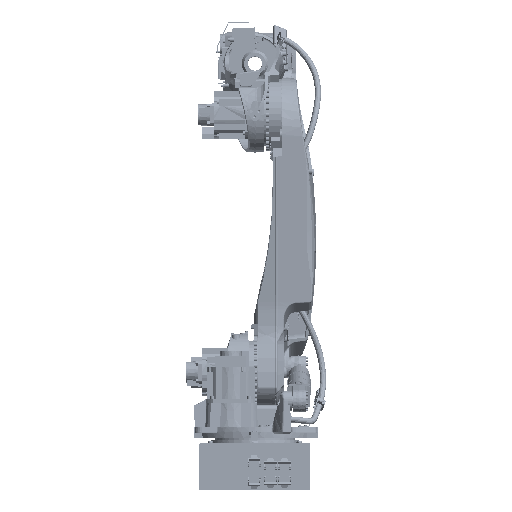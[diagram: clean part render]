
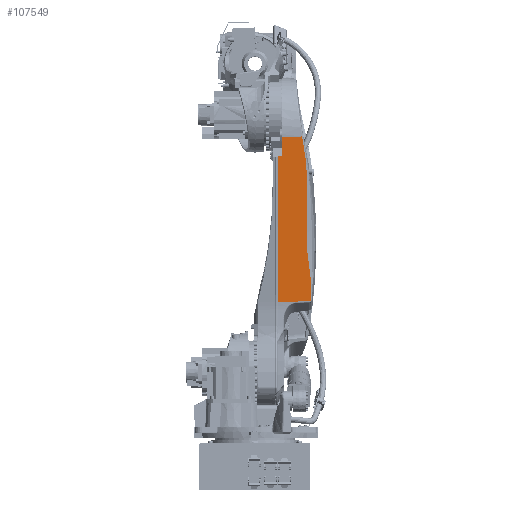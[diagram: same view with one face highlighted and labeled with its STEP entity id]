
A CAD part, front view. The second image highlights one B-rep face of the part: STEP entity #107549.
In plain terms, the highlighted planar face has unit normal (0.087, -0.991, -0.104).
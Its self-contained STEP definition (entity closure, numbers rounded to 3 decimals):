
#103948=CARTESIAN_POINT('Vertex',(212.656,-205.674,1061.971)) ;
#104421=CARTESIAN_POINT('Control Point',(252.686,-125.079,328.667)) ;
#104422=CARTESIAN_POINT('Control Point',(252.743,-125.157,329.453)) ;
#104423=CARTESIAN_POINT('Control Point',(252.8,-125.235,330.246)) ;
#104424=CARTESIAN_POINT('Control Point',(252.857,-125.313,331.039)) ;
#104425=CARTESIAN_POINT('Control Point',(253.02,-125.543,333.364)) ;
#104426=CARTESIAN_POINT('Control Point',(253.175,-125.774,335.688)) ;
#104427=CARTESIAN_POINT('Control Point',(253.274,-125.926,337.218)) ;
#104428=CARTESIAN_POINT('Control Point',(253.517,-126.315,341.123)) ;
#104429=CARTESIAN_POINT('Control Point',(253.732,-126.706,345.026)) ;
#104430=CARTESIAN_POINT('Control Point',(253.852,-126.945,347.399)) ;
#104431=CARTESIAN_POINT('Control Point',(254.068,-127.425,352.145)) ;
#104432=CARTESIAN_POINT('Control Point',(254.234,-127.909,356.888)) ;
#104433=CARTESIAN_POINT('Control Point',(254.304,-128.152,359.259)) ;
#104434=CARTESIAN_POINT('Control Point',(254.528,-129.123,368.689)) ;
#104435=CARTESIAN_POINT('Control Point',(254.528,-130.113,378.107)) ;
#104436=CARTESIAN_POINT('Control Point',(254.393,-130.865,385.15)) ;
#104437=CARTESIAN_POINT('Control Point',(253.653,-132.973,404.585)) ;
#104438=CARTESIAN_POINT('Control Point',(251.956,-135.154,423.917)) ;
#104439=CARTESIAN_POINT('Control Point',(250.528,-136.572,436.213)) ;
#104440=CARTESIAN_POINT('Control Point',(247.317,-139.342,459.879)) ;
#104441=CARTESIAN_POINT('Control Point',(243.662,-142.135,483.39)) ;
#104442=CARTESIAN_POINT('Control Point',(241.886,-143.483,494.731)) ;
#104443=CARTESIAN_POINT('Control Point',(237.76,-146.764,522.49)) ;
#104444=CARTESIAN_POINT('Control Point',(234.632,-149.953,550.219)) ;
#104445=CARTESIAN_POINT('Control Point',(233.357,-151.793,566.653)) ;
#104446=CARTESIAN_POINT('Control Point',(232.072,-155.543,601.257)) ;
#104447=CARTESIAN_POINT('Control Point',(232.209,-159.165,635.838)) ;
#104448=CARTESIAN_POINT('Control Point',(232.567,-161.042,653.992)) ;
#104449=CARTESIAN_POINT('Control Point',(233.625,-164.752,690.177)) ;
#104450=CARTESIAN_POINT('Control Point',(234.971,-168.443,726.418)) ;
#104451=CARTESIAN_POINT('Control Point',(235.615,-170.286,744.493)) ;
#104452=CARTESIAN_POINT('Control Point',(236.844,-174.589,786.464)) ;
#104453=CARTESIAN_POINT('Control Point',(237.082,-178.992,828.555)) ;
#104454=CARTESIAN_POINT('Control Point',(236.735,-181.543,852.539)) ;
#104455=CARTESIAN_POINT('Control Point',(235.406,-185.233,886.535)) ;
#104456=CARTESIAN_POINT('Control Point',(232.815,-189.032,920.506)) ;
#104457=CARTESIAN_POINT('Control Point',(231.941,-190.159,930.503)) ;
#104458=CARTESIAN_POINT('Control Point',(229.967,-192.433,950.486)) ;
#104459=CARTESIAN_POINT('Control Point',(227.553,-194.743,970.44)) ;
#104460=CARTESIAN_POINT('Control Point',(226.238,-195.906,980.409)) ;
#104461=CARTESIAN_POINT('Control Point',(223.381,-198.267,1000.481)) ;
#104462=CARTESIAN_POINT('Control Point',(220.138,-200.658,1020.514)) ;
#104463=CARTESIAN_POINT('Control Point',(218.416,-201.87,1030.6)) ;
#104464=CARTESIAN_POINT('Control Point',(216.214,-203.359,1042.929)) ;
#104465=CARTESIAN_POINT('Control Point',(213.922,-204.856,1055.25)) ;
#104466=CARTESIAN_POINT('Control Point',(213.507,-205.126,1057.468)) ;
#104467=CARTESIAN_POINT('Control Point',(213.083,-205.4,1059.72)) ;
#104468=CARTESIAN_POINT('Control Point',(212.656,-205.674,1061.971)) ;
#104469=CARTESIAN_POINT('Vertex',(252.686,-125.079,328.667)) ;
#107476=CARTESIAN_POINT('Vertex',(121.,-213.649,1061.133)) ;
#107479=CARTESIAN_POINT('Line Origine',(-2488961.989,-216787.245,-21701.67)) ;
#107493=CARTESIAN_POINT('Axis2P3D Location',(96.,-176.782,689.44)) ;
#107498=CARTESIAN_POINT('Line Origine',(104.505,-171.399,645.348)) ;
#107502=CARTESIAN_POINT('Vertex',(104.505,-136.999,318.054)) ;
#107504=CARTESIAN_POINT('Vertex',(104.505,-205.799,972.643)) ;
#107507=CARTESIAN_POINT('Line Origine',(176.477,-130.737,318.712)) ;
#107511=CARTESIAN_POINT('Vertex',(248.449,-124.475,319.37)) ;
#107515=CARTESIAN_POINT('Control Point',(248.449,-124.475,319.37)) ;
#107516=CARTESIAN_POINT('Control Point',(249.184,-124.474,319.977)) ;
#107517=CARTESIAN_POINT('Control Point',(249.833,-124.491,320.681)) ;
#107518=CARTESIAN_POINT('Control Point',(250.391,-124.522,321.444)) ;
#107519=CARTESIAN_POINT('Control Point',(251.151,-124.591,322.735)) ;
#107520=CARTESIAN_POINT('Control Point',(251.722,-124.686,324.122)) ;
#107521=CARTESIAN_POINT('Control Point',(251.907,-124.725,324.643)) ;
#107522=CARTESIAN_POINT('Control Point',(252.243,-124.811,325.744)) ;
#107523=CARTESIAN_POINT('Control Point',(252.478,-124.909,326.874)) ;
#107524=CARTESIAN_POINT('Control Point',(252.573,-124.963,327.469)) ;
#107525=CARTESIAN_POINT('Control Point',(252.642,-125.02,328.067)) ;
#107526=CARTESIAN_POINT('Control Point',(252.686,-125.079,328.667)) ;
#107528=CARTESIAN_POINT('Line Origine',(121.,-209.074,1017.607)) ;
#107532=CARTESIAN_POINT('Vertex',(121.,-204.499,974.081)) ;
#107535=CARTESIAN_POINT('Line Origine',(112.752,-205.149,973.362)) ;
#107480=DIRECTION('Vector Direction',(-0.996,-0.087,-0.009)) ;
#107494=DIRECTION('Axis2P3D Direction',(-0.087,0.991,0.104)) ;
#107495=DIRECTION('Axis2P3D XDirection',(0.,0.105,-0.995)) ;
#107499=DIRECTION('Vector Direction',(0.,0.105,-0.995)) ;
#107508=DIRECTION('Vector Direction',(-0.996,-0.087,-0.009)) ;
#107529=DIRECTION('Vector Direction',(0.,0.105,-0.995)) ;
#107536=DIRECTION('Vector Direction',(-0.993,-0.078,-0.087)) ;
#107496=AXIS2_PLACEMENT_3D('Plane Axis2P3D',#107493,#107494,#107495) ;
#107541=ORIENTED_EDGE('',*,*,#107506,.F.) ;
#107542=ORIENTED_EDGE('',*,*,#107513,.T.) ;
#107543=ORIENTED_EDGE('',*,*,#107527,.F.) ;
#107544=ORIENTED_EDGE('',*,*,#104471,.F.) ;
#107545=ORIENTED_EDGE('',*,*,#107483,.F.) ;
#107546=ORIENTED_EDGE('',*,*,#107534,.F.) ;
#107547=ORIENTED_EDGE('',*,*,#107539,.T.) ;
#107481=VECTOR('Line Direction',#107480,1.) ;
#107500=VECTOR('Line Direction',#107499,1.) ;
#107509=VECTOR('Line Direction',#107508,1.) ;
#107530=VECTOR('Line Direction',#107529,1.) ;
#107537=VECTOR('Line Direction',#107536,1.) ;
#107549=ADVANCED_FACE('J2',(#107548),#107497,.F.) ;
#104420=B_SPLINE_CURVE_WITH_KNOTS('',5,(#104421,#104422,#104423,#104424,#104425,#104426,#104427,#104428,#104429,#104430,#104431,#104432,#104433,#104434,#104435,#104436,#104437,#104438,#104439,#104440,#104441,#104442,#104443,#104444,#104445,#104446,#104447,#104448,#104449,#104450,#104451,#104452,#104453,#104454,#104455,#104456,#104457,#104458,#104459,#104460,#104461,#104462,#104463,#104464,#104465,#104466,#104467,#104468),.UNSPECIFIED.,.F.,.U.,(6,3,3,3,3,3,3,3,3,3,3,3,3,3,3,6),(88.771,92.695,100.259,111.998,123.737,158.704,220.39,278.055,361.803,454.333,546.179,667.336,717.874,768.411,819.745,831.227),.UNSPECIFIED.) ;
#107514=B_SPLINE_CURVE_WITH_KNOTS('',5,(#107515,#107516,#107517,#107518,#107519,#107520,#107521,#107522,#107523,#107524,#107525,#107526),.UNSPECIFIED.,.F.,.U.,(6,3,3,6),(0.,6.736,10.632,14.885),.UNSPECIFIED.) ;
#104471=EDGE_CURVE('',#103949,#104470,#104420,.F.) ;
#107483=EDGE_CURVE('',#107477,#103949,#107482,.F.) ;
#107506=EDGE_CURVE('',#107503,#107505,#107501,.F.) ;
#107513=EDGE_CURVE('',#107503,#107512,#107510,.F.) ;
#107527=EDGE_CURVE('',#104470,#107512,#107514,.F.) ;
#107534=EDGE_CURVE('',#107533,#107477,#107531,.F.) ;
#107539=EDGE_CURVE('',#107533,#107505,#107538,.T.) ;
#107540=EDGE_LOOP('',(#107541,#107542,#107543,#107544,#107545,#107546,#107547)) ;
#107548=FACE_OUTER_BOUND('',#107540,.T.) ;
#107482=LINE('Line',#107479,#107481) ;
#107501=LINE('Line',#107498,#107500) ;
#107510=LINE('Line',#107507,#107509) ;
#107531=LINE('Line',#107528,#107530) ;
#107538=LINE('Line',#107535,#107537) ;
#107497=PLANE('',#107496) ;
#103949=VERTEX_POINT('',#103948) ;
#104470=VERTEX_POINT('',#104469) ;
#107477=VERTEX_POINT('',#107476) ;
#107503=VERTEX_POINT('',#107502) ;
#107505=VERTEX_POINT('',#107504) ;
#107512=VERTEX_POINT('',#107511) ;
#107533=VERTEX_POINT('',#107532) ;
